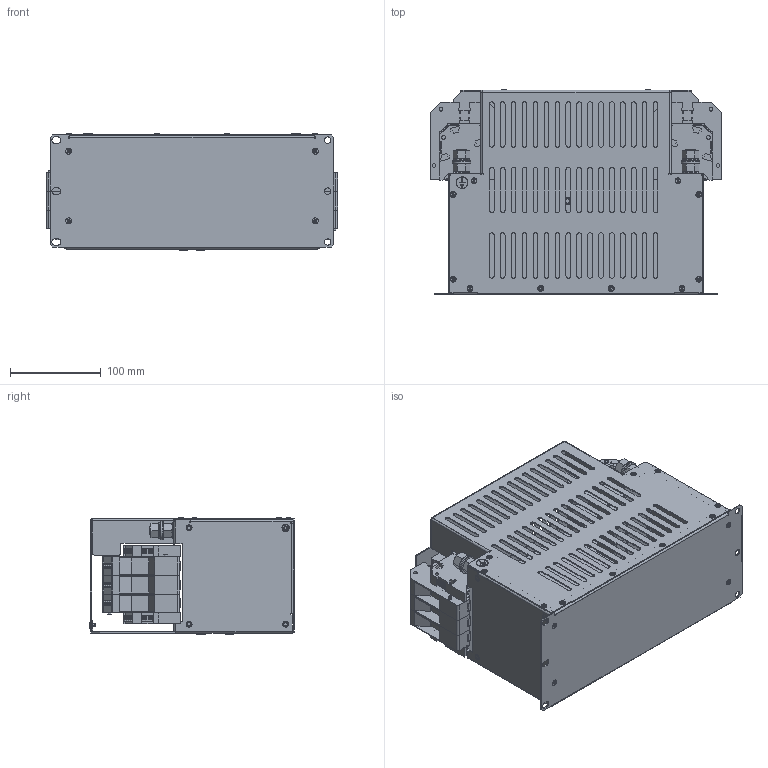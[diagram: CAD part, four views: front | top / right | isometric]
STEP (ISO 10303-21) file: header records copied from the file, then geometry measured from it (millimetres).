
FILE_DESCRIPTION (( 'STEP AP214' ), '1' );
FILE_NAME ('KMF3150.STEP', '2016-04-26T09:05:14', ( '' ), ( '' ), 'SwSTEP 2.0', 'SolidWorks 2014', '' );
FILE_SCHEMA (( 'AUTOMOTIVE_DESIGN' ));
Length unit declared in the file: millimetre
Products named in the file (19): TER736 (1); TER724 (1); FIX119; FIX139; Earth punch; BOX675lid_FLAT TABS; PEM HFH-M6-15 ZI_PEM HFH-M6-15 ZI; PEM SSS-4mm-14 ZI_PEM SSS-4mm-14 ZI; PEM SO-M4-14 ZI--N_PEM SO-M4-14 ZI--N; PEM HFH-M10-30 ZI--C_PEM HFH-M10-30 ZI--C; BOX675A; SCR230; M4 EXT WSH_M4; KMF3150; M4 X 12 PAN_91-0001-47017; WSH142; WSH172; hex nut gradec_bsi_NUT103; BOX675_BOX+LID TER736
Assembly tree (58 placements, depth 3):
  KMF3150
    hex nut gradec_bsi_NUT103  x4
    WSH172  x4
    WSH142  x4
    SCR230  x2
      M4 X 12 PAN_91-0001-47017
      M4 EXT WSH_M4
    BOX675_BOX+LID TER736
      BOX675A
      PEM HFH-M10-30 ZI--C_PEM HFH-M10-30 ZI--C  x2
      PEM SO-M4-14 ZI--N_PEM SO-M4-14 ZI--N  x2
      PEM SSS-4mm-14 ZI_PEM SSS-4mm-14 ZI  x6
      PEM HFH-M6-15 ZI_PEM HFH-M6-15 ZI  x2
      BOX675lid_FLAT TABS
      Earth punch
      FIX139  x12
      FIX119  x4
      TER724 (1)  x4
      TER736 (1)  x6
Bounding box: 320 x 225.2 x 127.59 mm (x, y, z)
Volume: 1048604.6 mm3; surface area: 657997.3 mm2
Topology: 97 solids, 97 shells, 5275 faces, 13929 edges, 9086 vertices
Faces by surface type: plane 3389, cylinder 1278, cone 508, torus 96, sphere 4
Entity records: 58205 total; most frequent: CARTESIAN_POINT 10236, DIRECTION 9829, ORIENTED_EDGE 9618, EDGE_CURVE 4809, VECTOR 3349, LINE 3349, AXIS2_PLACEMENT_3D 3240, VERTEX_POINT 3103
